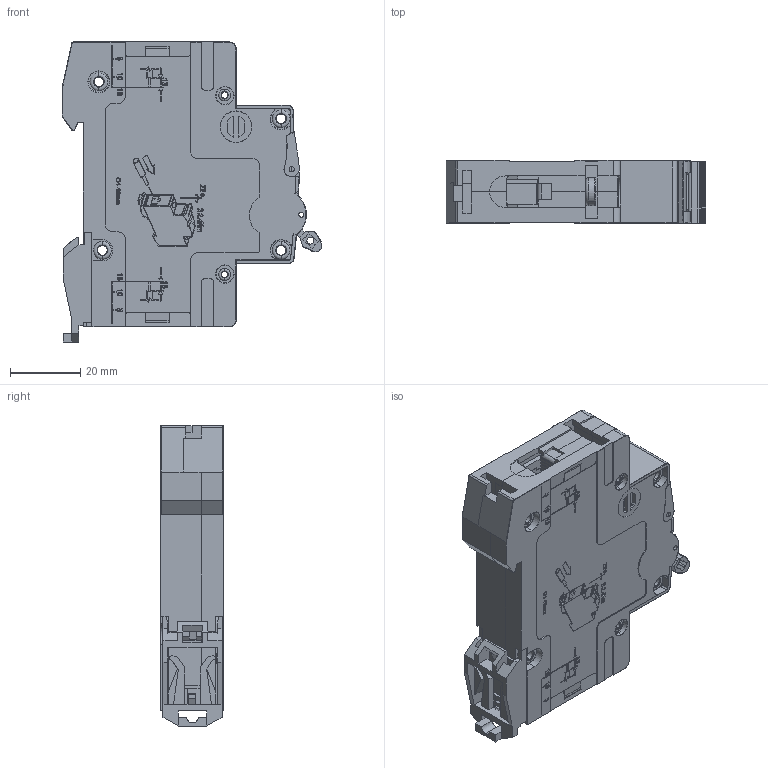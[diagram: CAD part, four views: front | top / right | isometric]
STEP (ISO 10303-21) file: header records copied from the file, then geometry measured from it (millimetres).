
FILE_DESCRIPTION (( 'STEP AP214' ), '1' );
FILE_NAME ('TDZ-1D-13.STEP', '2026-04-30T12:49:23', ( '' ), ( '' ), 'SwSTEP 2.0', 'SolidWorks 2025', '' );
FILE_SCHEMA (( 'AUTOMOTIVE_DESIGN' ));
Length unit declared in the file: millimetre
Products named in the file (1): TDZ-1D-13
Bounding box: 73.85 x 17.8 x 85.3 mm (x, y, z)
Volume: 30480.2 mm3; surface area: 48197.3 mm2
Topology: 21 solids, 21 shells, 4136 faces, 11941 edges, 8058 vertices
Faces by surface type: plane 2533, cylinder 993, bspline 403, torus 161, cone 46
Entity records: 210771 total; most frequent: CARTESIAN_POINT 60888, ORIENTED_EDGE 23858, DIRECTION 19593, EDGE_CURVE 11929, VERTEX_POINT 8058, LINE 7959, VECTOR 7959, AXIS2_PLACEMENT_3D 5817
